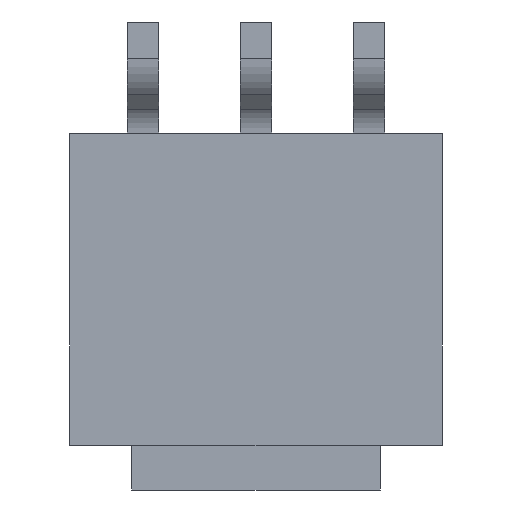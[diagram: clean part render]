
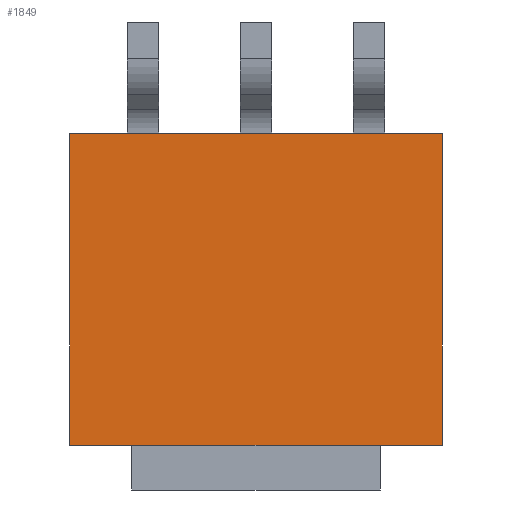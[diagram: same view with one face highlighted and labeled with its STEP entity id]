
A CAD part, front view. The second image highlights one B-rep face of the part: STEP entity #1849.
In plain terms, the highlighted planar face has unit normal (0, -1, 0).
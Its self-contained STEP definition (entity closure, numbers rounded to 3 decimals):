
#1666 = CARTESIAN_POINT ( 'NONE',  ( -4.198, 0., 2.755 ) ) ;
#1667 = VERTEX_POINT ( 'NONE', #1666 ) ;
#1682 = CARTESIAN_POINT ( 'NONE',  ( -4.198, 0., -4.26 ) ) ;
#1683 = VERTEX_POINT ( 'NONE', #1682 ) ;
#1690 = CARTESIAN_POINT ( 'NONE',  ( -4.198, 0., -4.26 ) ) ;
#1691 = DIRECTION ( 'NONE',  ( 0., 0., 1. ) ) ;
#1692 = VECTOR ( 'NONE', #1691, 1000. ) ;
#1693 = LINE ( 'NONE', #1690, #1692 ) ;
#1694 = EDGE_CURVE ( 'NONE', #1683, #1667, #1693, .T. ) ;
#1706 = CARTESIAN_POINT ( 'NONE',  ( 4.198, 0., 2.755 ) ) ;
#1707 = VERTEX_POINT ( 'NONE', #1706 ) ;
#1721 = CARTESIAN_POINT ( 'NONE',  ( -4.198, 0., 2.755 ) ) ;
#1722 = DIRECTION ( 'NONE',  ( 1., 0., 0. ) ) ;
#1723 = VECTOR ( 'NONE', #1722, 1000. ) ;
#1724 = LINE ( 'NONE', #1721, #1723 ) ;
#1725 = EDGE_CURVE ( 'NONE', #1667, #1707, #1724, .T. ) ;
#1737 = CARTESIAN_POINT ( 'NONE',  ( 4.198, 0., -4.26 ) ) ;
#1738 = VERTEX_POINT ( 'NONE', #1737 ) ;
#1752 = CARTESIAN_POINT ( 'NONE',  ( 4.198, 0., -4.26 ) ) ;
#1753 = DIRECTION ( 'NONE',  ( 0., 0., -1. ) ) ;
#1754 = VECTOR ( 'NONE', #1753, 1000. ) ;
#1755 = LINE ( 'NONE', #1752, #1754 ) ;
#1756 = EDGE_CURVE ( 'NONE', #1707, #1738, #1755, .T. ) ;
#1774 = CARTESIAN_POINT ( 'NONE',  ( -4.198, 0., -4.26 ) ) ;
#1775 = DIRECTION ( 'NONE',  ( -1., 0., 0. ) ) ;
#1776 = VECTOR ( 'NONE', #1775, 1000. ) ;
#1777 = LINE ( 'NONE', #1774, #1776 ) ;
#1778 = EDGE_CURVE ( 'NONE', #1738, #1683, #1777, .T. ) ;
#1838 = ORIENTED_EDGE ( 'NONE', *, *, #1694, .F. ) ;
#1839 = ORIENTED_EDGE ( 'NONE', *, *, #1778, .F. ) ;
#1840 = ORIENTED_EDGE ( 'NONE', *, *, #1756, .F. ) ;
#1841 = ORIENTED_EDGE ( 'NONE', *, *, #1725, .F. ) ;
#1842 = EDGE_LOOP ( 'NONE', ( #1838, #1839, #1840, #1841 ) ) ;
#1843 = FACE_OUTER_BOUND ( 'NONE', #1842, .T. ) ;
#1844 = CARTESIAN_POINT ( 'NONE',  ( 0., 0., 0. ) ) ;
#1845 = DIRECTION ( 'NONE',  ( 0., 1., 0. ) ) ;
#1846 = DIRECTION ( 'NONE',  ( 0., 0., 1. ) ) ;
#1847 = AXIS2_PLACEMENT_3D ( 'NONE', #1844, #1845, #1846 ) ;
#1848 = PLANE ( 'NONE', #1847 ) ;
#1849 = ADVANCED_FACE ( 'NONE', ( #1843 ), #1848, .F. ) ;
